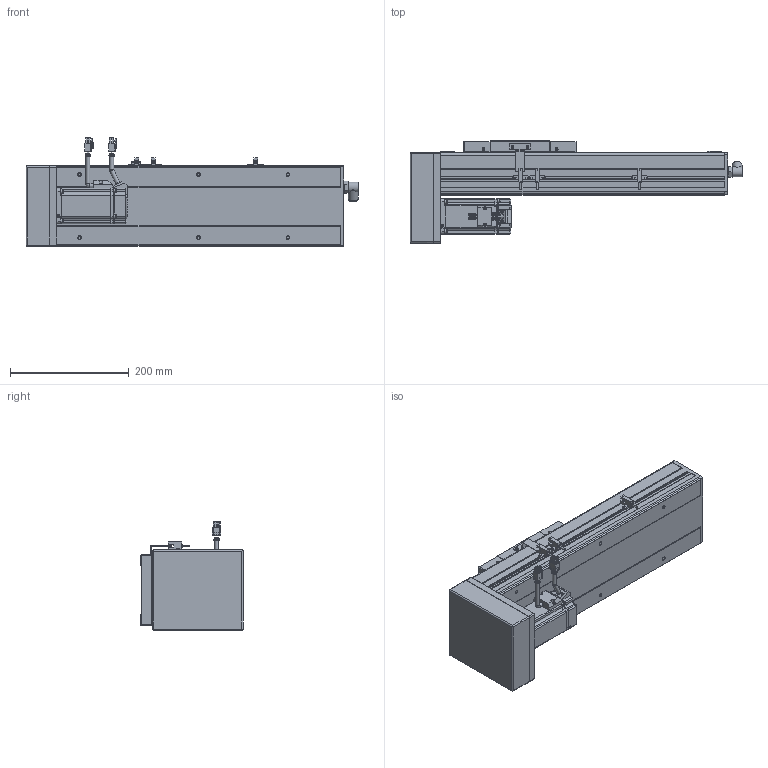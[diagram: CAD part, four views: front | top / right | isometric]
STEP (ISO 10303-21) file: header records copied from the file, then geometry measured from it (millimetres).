
FILE_DESCRIPTION(/* description */ ('STEP AP214'),/* implementation_level */ '2;1');
FILE_NAME(/* name */ 'PSC140-L05-S200-BM-P40-C1-N(0)',/* time_stamp */ '2022-06-13T03:20:25+02:00',/* author */ ('License CC BY-ND 4.0'),/* organization */ ('CADENAS'),/* preprocessor_version */ 'ST-DEVELOPER v18.102',/* originating_system */ 'PARTsolutions',/* authorisation */ ' ');
FILE_SCHEMA (('AUTOMOTIVE_DESIGN {1 0 10303 214 3 1 1}'));
Length unit declared in the file: millimetre
Products named in the file (11): PSC140-L05-S200-BM-P40-C1-N(0); P40-s2; P40-c2; P40-s1; P40-c1; P40-p1; PSC140-BM-body2; PSC140-sensor; PSC140-BM-SLIDER; PSC140-S200-BM-P40-C1_BODY1; PSC140-L05-S200-BM-P40-C1-N(0)_dummy
Assembly tree (12 placements, depth 2):
  PSC140-L05-S200-BM-P40-C1-N(0)
    P40-s2
    P40-c2
    P40-s1
    P40-c1
    P40-p1
    PSC140-BM-body2
    PSC140-sensor  x3
    PSC140-BM-SLIDER
    PSC140-S200-BM-P40-C1_BODY1
    PSC140-L05-S200-BM-P40-C1-N(0)_dummy
Bounding box: 558 x 171.5 x 182.48 mm (x, y, z)
Volume: 6410220.1 mm3; surface area: 435401.7 mm2
Topology: 11 solids, 11 shells, 1213 faces, 3149 edges, 2085 vertices
Faces by surface type: plane 852, cylinder 308, cone 34, torus 19
Full cylindrical faces by diameter (mm): 1 x8, 2.6 x10, 2.8 x3, 3.3 x8, 4.5 x12, 4.6 x3, 4.917 x10, 5 x4, 5.5 x8, 6 x10, 7 x10, 9 x2, 10 x1, 11 x1, 12 x1, 13.74 x1, 14 x1, 16.4 x2, 16.5 x1, 36 x1, 50 x2
Entity records: 33726 total; most frequent: CARTESIAN_POINT 5899, DIRECTION 5659, ORIENTED_EDGE 5498, EDGE_CURVE 2749, LINE 2097, VECTOR 2097, VERTEX_POINT 1906, AXIS2_PLACEMENT_3D 1781
